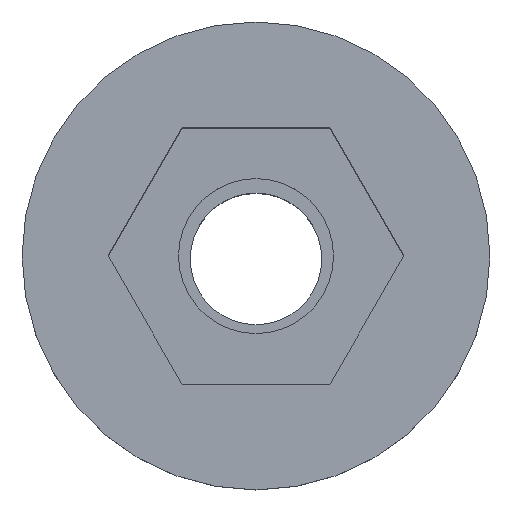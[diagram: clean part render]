
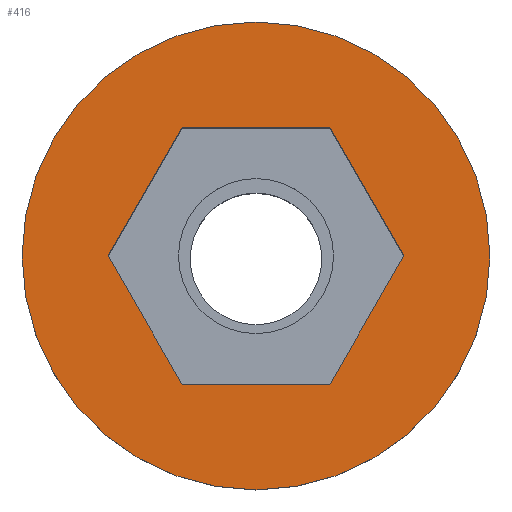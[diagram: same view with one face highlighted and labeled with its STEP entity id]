
A CAD part, top view. The second image highlights one B-rep face of the part: STEP entity #416.
In plain terms, the highlighted planar face has unit normal (0, 0, 1).
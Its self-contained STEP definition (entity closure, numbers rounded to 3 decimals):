
#188 = CYLINDRICAL_SURFACE('',#189,16.);
#189 = AXIS2_PLACEMENT_3D('',#190,#191,#192);
#190 = CARTESIAN_POINT('',(0.,0.,111.5));
#191 = DIRECTION('',(-0.,-0.,-1.));
#192 = DIRECTION('',(1.,0.,0.));
#326 = VERTEX_POINT('',#327);
#327 = CARTESIAN_POINT('',(16.,0.,115.5));
#348 = EDGE_CURVE('',#326,#326,#349,.T.);
#349 = SURFACE_CURVE('',#350,(#355,#362),.PCURVE_S1.);
#350 = CIRCLE('',#351,16.);
#351 = AXIS2_PLACEMENT_3D('',#352,#353,#354);
#352 = CARTESIAN_POINT('',(0.,0.,115.5));
#353 = DIRECTION('',(0.,0.,1.));
#354 = DIRECTION('',(1.,0.,0.));
#355 = PCURVE('',#188,#356);
#356 = DEFINITIONAL_REPRESENTATION('',(#357),#361);
#357 = LINE('',#358,#359);
#358 = CARTESIAN_POINT('',(-0.,-4.));
#359 = VECTOR('',#360,1.);
#360 = DIRECTION('',(-1.,0.));
#361 = ( GEOMETRIC_REPRESENTATION_CONTEXT(2) 
PARAMETRIC_REPRESENTATION_CONTEXT() REPRESENTATION_CONTEXT('2D SPACE',''
  ) );
#362 = PCURVE('',#363,#368);
#363 = PLANE('',#364);
#364 = AXIS2_PLACEMENT_3D('',#365,#366,#367);
#365 = CARTESIAN_POINT('',(0.,0.,115.5)
  );
#366 = DIRECTION('',(0.,0.,1.));
#367 = DIRECTION('',(1.,0.,-0.));
#368 = DEFINITIONAL_REPRESENTATION('',(#369),#373);
#369 = CIRCLE('',#370,16.);
#370 = AXIS2_PLACEMENT_2D('',#371,#372);
#371 = CARTESIAN_POINT('',(0.,0.));
#372 = DIRECTION('',(1.,0.));
#373 = ( GEOMETRIC_REPRESENTATION_CONTEXT(2) 
PARAMETRIC_REPRESENTATION_CONTEXT() REPRESENTATION_CONTEXT('2D SPACE',''
  ) );
#416 = ADVANCED_FACE('',(#417,#420),#363,.T.);
#417 = FACE_BOUND('',#418,.T.);
#418 = EDGE_LOOP('',(#419));
#419 = ORIENTED_EDGE('',*,*,#348,.T.);
#420 = FACE_BOUND('',#421,.T.);
#421 = EDGE_LOOP('',(#422,#450,#476,#502,#528,#554));
#422 = ORIENTED_EDGE('',*,*,#423,.T.);
#423 = EDGE_CURVE('',#424,#426,#428,.T.);
#424 = VERTEX_POINT('',#425);
#425 = CARTESIAN_POINT('',(-5.057,8.76,115.5));
#426 = VERTEX_POINT('',#427);
#427 = CARTESIAN_POINT('',(5.057,8.76,115.5));
#428 = SURFACE_CURVE('',#429,(#433,#439),.PCURVE_S1.);
#429 = LINE('',#430,#431);
#430 = CARTESIAN_POINT('',(2.529,8.76,115.5));
#431 = VECTOR('',#432,1.);
#432 = DIRECTION('',(1.,0.,-0.));
#433 = PCURVE('',#363,#434);
#434 = DEFINITIONAL_REPRESENTATION('',(#435),#438);
#435 = B_SPLINE_CURVE_WITH_KNOTS('',1,(#436,#437),.UNSPECIFIED.,.F.,.F.,
  (2,2),(-7.586,2.529),.PIECEWISE_BEZIER_KNOTS.);
#436 = CARTESIAN_POINT('',(-5.057,8.76));
#437 = CARTESIAN_POINT('',(5.057,8.76));
#438 = ( GEOMETRIC_REPRESENTATION_CONTEXT(2) 
PARAMETRIC_REPRESENTATION_CONTEXT() REPRESENTATION_CONTEXT('2D SPACE',''
  ) );
#439 = PCURVE('',#440,#445);
#440 = PLANE('',#441);
#441 = AXIS2_PLACEMENT_3D('',#442,#443,#444);
#442 = CARTESIAN_POINT('',(5.057,8.76,109.5));
#443 = DIRECTION('',(0.,-1.,0.));
#444 = DIRECTION('',(-1.,0.,0.));
#445 = DEFINITIONAL_REPRESENTATION('',(#446),#449);
#446 = B_SPLINE_CURVE_WITH_KNOTS('',1,(#447,#448),.UNSPECIFIED.,.F.,.F.,
  (2,2),(-7.586,2.529),.PIECEWISE_BEZIER_KNOTS.);
#447 = CARTESIAN_POINT('',(10.115,-6.));
#448 = CARTESIAN_POINT('',(0.,-6.));
#449 = ( GEOMETRIC_REPRESENTATION_CONTEXT(2) 
PARAMETRIC_REPRESENTATION_CONTEXT() REPRESENTATION_CONTEXT('2D SPACE',''
  ) );
#450 = ORIENTED_EDGE('',*,*,#451,.T.);
#451 = EDGE_CURVE('',#426,#452,#454,.T.);
#452 = VERTEX_POINT('',#453);
#453 = CARTESIAN_POINT('',(10.115,0.,115.5));
#454 = SURFACE_CURVE('',#455,(#459,#465),.PCURVE_S1.);
#455 = LINE('',#456,#457);
#456 = CARTESIAN_POINT('',(8.851,2.19,115.5));
#457 = VECTOR('',#458,1.);
#458 = DIRECTION('',(0.5,-0.866,0.));
#459 = PCURVE('',#363,#460);
#460 = DEFINITIONAL_REPRESENTATION('',(#461),#464);
#461 = B_SPLINE_CURVE_WITH_KNOTS('',1,(#462,#463),.UNSPECIFIED.,.F.,.F.,
  (2,2),(-7.586,2.529),.PIECEWISE_BEZIER_KNOTS.);
#462 = CARTESIAN_POINT('',(5.057,8.76));
#463 = CARTESIAN_POINT('',(10.115,0.));
#464 = ( GEOMETRIC_REPRESENTATION_CONTEXT(2) 
PARAMETRIC_REPRESENTATION_CONTEXT() REPRESENTATION_CONTEXT('2D SPACE',''
  ) );
#465 = PCURVE('',#466,#471);
#466 = PLANE('',#467);
#467 = AXIS2_PLACEMENT_3D('',#468,#469,#470);
#468 = CARTESIAN_POINT('',(10.115,0.,109.5));
#469 = DIRECTION('',(-0.866,-0.5,0.));
#470 = DIRECTION('',(-0.5,0.866,0.));
#471 = DEFINITIONAL_REPRESENTATION('',(#472),#475);
#472 = B_SPLINE_CURVE_WITH_KNOTS('',1,(#473,#474),.UNSPECIFIED.,.F.,.F.,
  (2,2),(-7.586,2.529),.PIECEWISE_BEZIER_KNOTS.);
#473 = CARTESIAN_POINT('',(10.115,-6.));
#474 = CARTESIAN_POINT('',(0.,-6.));
#475 = ( GEOMETRIC_REPRESENTATION_CONTEXT(2) 
PARAMETRIC_REPRESENTATION_CONTEXT() REPRESENTATION_CONTEXT('2D SPACE',''
  ) );
#476 = ORIENTED_EDGE('',*,*,#477,.T.);
#477 = EDGE_CURVE('',#452,#478,#480,.T.);
#478 = VERTEX_POINT('',#479);
#479 = CARTESIAN_POINT('',(5.057,-8.76,115.5));
#480 = SURFACE_CURVE('',#481,(#485,#491),.PCURVE_S1.);
#481 = LINE('',#482,#483);
#482 = CARTESIAN_POINT('',(6.322,-6.57,115.5));
#483 = VECTOR('',#484,1.);
#484 = DIRECTION('',(-0.5,-0.866,0.));
#485 = PCURVE('',#363,#486);
#486 = DEFINITIONAL_REPRESENTATION('',(#487),#490);
#487 = B_SPLINE_CURVE_WITH_KNOTS('',1,(#488,#489),.UNSPECIFIED.,.F.,.F.,
  (2,2),(-7.586,2.529),.PIECEWISE_BEZIER_KNOTS.);
#488 = CARTESIAN_POINT('',(10.115,0.));
#489 = CARTESIAN_POINT('',(5.057,-8.76));
#490 = ( GEOMETRIC_REPRESENTATION_CONTEXT(2) 
PARAMETRIC_REPRESENTATION_CONTEXT() REPRESENTATION_CONTEXT('2D SPACE',''
  ) );
#491 = PCURVE('',#492,#497);
#492 = PLANE('',#493);
#493 = AXIS2_PLACEMENT_3D('',#494,#495,#496);
#494 = CARTESIAN_POINT('',(5.057,-8.76,109.5));
#495 = DIRECTION('',(-0.866,0.5,0.));
#496 = DIRECTION('',(0.5,0.866,0.));
#497 = DEFINITIONAL_REPRESENTATION('',(#498),#501);
#498 = B_SPLINE_CURVE_WITH_KNOTS('',1,(#499,#500),.UNSPECIFIED.,.F.,.F.,
  (2,2),(-7.586,2.529),.PIECEWISE_BEZIER_KNOTS.);
#499 = CARTESIAN_POINT('',(10.115,-6.));
#500 = CARTESIAN_POINT('',(0.,-6.));
#501 = ( GEOMETRIC_REPRESENTATION_CONTEXT(2) 
PARAMETRIC_REPRESENTATION_CONTEXT() REPRESENTATION_CONTEXT('2D SPACE',''
  ) );
#502 = ORIENTED_EDGE('',*,*,#503,.T.);
#503 = EDGE_CURVE('',#478,#504,#506,.T.);
#504 = VERTEX_POINT('',#505);
#505 = CARTESIAN_POINT('',(-5.057,-8.76,115.5));
#506 = SURFACE_CURVE('',#507,(#511,#517),.PCURVE_S1.);
#507 = LINE('',#508,#509);
#508 = CARTESIAN_POINT('',(-2.529,-8.76,115.5));
#509 = VECTOR('',#510,1.);
#510 = DIRECTION('',(-1.,0.,0.));
#511 = PCURVE('',#363,#512);
#512 = DEFINITIONAL_REPRESENTATION('',(#513),#516);
#513 = B_SPLINE_CURVE_WITH_KNOTS('',1,(#514,#515),.UNSPECIFIED.,.F.,.F.,
  (2,2),(-7.586,2.529),.PIECEWISE_BEZIER_KNOTS.);
#514 = CARTESIAN_POINT('',(5.057,-8.76));
#515 = CARTESIAN_POINT('',(-5.057,-8.76));
#516 = ( GEOMETRIC_REPRESENTATION_CONTEXT(2) 
PARAMETRIC_REPRESENTATION_CONTEXT() REPRESENTATION_CONTEXT('2D SPACE',''
  ) );
#517 = PCURVE('',#518,#523);
#518 = PLANE('',#519);
#519 = AXIS2_PLACEMENT_3D('',#520,#521,#522);
#520 = CARTESIAN_POINT('',(-5.057,-8.76,109.5));
#521 = DIRECTION('',(0.,1.,-0.));
#522 = DIRECTION('',(1.,0.,0.));
#523 = DEFINITIONAL_REPRESENTATION('',(#524),#527);
#524 = B_SPLINE_CURVE_WITH_KNOTS('',1,(#525,#526),.UNSPECIFIED.,.F.,.F.,
  (2,2),(-7.586,2.529),.PIECEWISE_BEZIER_KNOTS.);
#525 = CARTESIAN_POINT('',(10.115,-6.));
#526 = CARTESIAN_POINT('',(0.,-6.));
#527 = ( GEOMETRIC_REPRESENTATION_CONTEXT(2) 
PARAMETRIC_REPRESENTATION_CONTEXT() REPRESENTATION_CONTEXT('2D SPACE',''
  ) );
#528 = ORIENTED_EDGE('',*,*,#529,.T.);
#529 = EDGE_CURVE('',#504,#530,#532,.T.);
#530 = VERTEX_POINT('',#531);
#531 = CARTESIAN_POINT('',(-10.115,0.,115.5));
#532 = SURFACE_CURVE('',#533,(#537,#543),.PCURVE_S1.);
#533 = LINE('',#534,#535);
#534 = CARTESIAN_POINT('',(-8.851,-2.19,115.5));
#535 = VECTOR('',#536,1.);
#536 = DIRECTION('',(-0.5,0.866,0.));
#537 = PCURVE('',#363,#538);
#538 = DEFINITIONAL_REPRESENTATION('',(#539),#542);
#539 = B_SPLINE_CURVE_WITH_KNOTS('',1,(#540,#541),.UNSPECIFIED.,.F.,.F.,
  (2,2),(-7.586,2.529),.PIECEWISE_BEZIER_KNOTS.);
#540 = CARTESIAN_POINT('',(-5.057,-8.76));
#541 = CARTESIAN_POINT('',(-10.115,0.));
#542 = ( GEOMETRIC_REPRESENTATION_CONTEXT(2) 
PARAMETRIC_REPRESENTATION_CONTEXT() REPRESENTATION_CONTEXT('2D SPACE',''
  ) );
#543 = PCURVE('',#544,#549);
#544 = PLANE('',#545);
#545 = AXIS2_PLACEMENT_3D('',#546,#547,#548);
#546 = CARTESIAN_POINT('',(-10.115,0.,109.5));
#547 = DIRECTION('',(0.866,0.5,-0.));
#548 = DIRECTION('',(0.5,-0.866,0.));
#549 = DEFINITIONAL_REPRESENTATION('',(#550),#553);
#550 = B_SPLINE_CURVE_WITH_KNOTS('',1,(#551,#552),.UNSPECIFIED.,.F.,.F.,
  (2,2),(-7.586,2.529),.PIECEWISE_BEZIER_KNOTS.);
#551 = CARTESIAN_POINT('',(10.115,-6.));
#552 = CARTESIAN_POINT('',(0.,-6.));
#553 = ( GEOMETRIC_REPRESENTATION_CONTEXT(2) 
PARAMETRIC_REPRESENTATION_CONTEXT() REPRESENTATION_CONTEXT('2D SPACE',''
  ) );
#554 = ORIENTED_EDGE('',*,*,#555,.T.);
#555 = EDGE_CURVE('',#530,#424,#556,.T.);
#556 = SURFACE_CURVE('',#557,(#561,#567),.PCURVE_S1.);
#557 = LINE('',#558,#559);
#558 = CARTESIAN_POINT('',(-6.322,6.57,115.5));
#559 = VECTOR('',#560,1.);
#560 = DIRECTION('',(0.5,0.866,-0.));
#561 = PCURVE('',#363,#562);
#562 = DEFINITIONAL_REPRESENTATION('',(#563),#566);
#563 = B_SPLINE_CURVE_WITH_KNOTS('',1,(#564,#565),.UNSPECIFIED.,.F.,.F.,
  (2,2),(-7.586,2.529),.PIECEWISE_BEZIER_KNOTS.);
#564 = CARTESIAN_POINT('',(-10.115,0.));
#565 = CARTESIAN_POINT('',(-5.057,8.76));
#566 = ( GEOMETRIC_REPRESENTATION_CONTEXT(2) 
PARAMETRIC_REPRESENTATION_CONTEXT() REPRESENTATION_CONTEXT('2D SPACE',''
  ) );
#567 = PCURVE('',#568,#573);
#568 = PLANE('',#569);
#569 = AXIS2_PLACEMENT_3D('',#570,#571,#572);
#570 = CARTESIAN_POINT('',(-5.057,8.76,109.5));
#571 = DIRECTION('',(0.866,-0.5,0.));
#572 = DIRECTION('',(-0.5,-0.866,0.));
#573 = DEFINITIONAL_REPRESENTATION('',(#574),#577);
#574 = B_SPLINE_CURVE_WITH_KNOTS('',1,(#575,#576),.UNSPECIFIED.,.F.,.F.,
  (2,2),(-7.586,2.529),.PIECEWISE_BEZIER_KNOTS.);
#575 = CARTESIAN_POINT('',(10.115,-6.));
#576 = CARTESIAN_POINT('',(0.,-6.));
#577 = ( GEOMETRIC_REPRESENTATION_CONTEXT(2) 
PARAMETRIC_REPRESENTATION_CONTEXT() REPRESENTATION_CONTEXT('2D SPACE',''
  ) );
